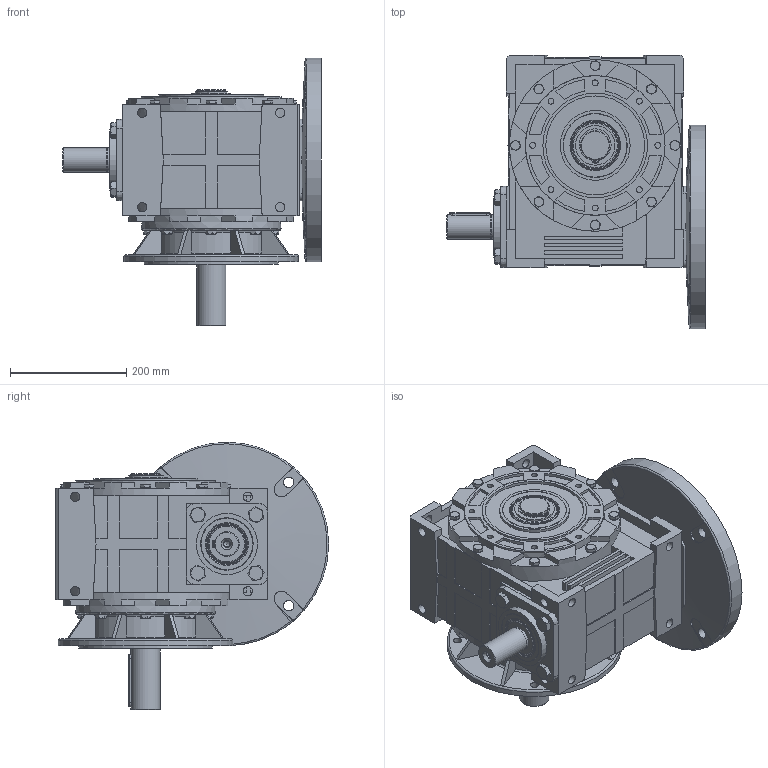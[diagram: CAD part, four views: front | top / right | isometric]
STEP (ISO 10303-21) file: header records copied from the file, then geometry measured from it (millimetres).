
FILE_DESCRIPTION (( 'STEP AP203' ), '1' );
FILE_NAME ('MR-140_160B5+WBS_K300_1_WJ_1_3D.STEP', '2018-11-14T13:05:59', ( 'Biuro' ), ( 'Microsoft' ), 'SwSTEP 2.0', 'SolidWorks 2013', '' );
FILE_SCHEMA (( 'CONFIG_CONTROL_DESIGN' ));
Length unit declared in the file: millimetre
Products named in the file (1): MR-140_160B5+WBS_K300_1_WJ_1_3D
Bounding box: 445 x 470 x 460 mm (x, y, z)
Volume: 23708454.6 mm3; surface area: 1294443.5 mm2
Topology: 1 solids, 35 shells, 1462 faces, 3576 edges, 2265 vertices
Faces by surface type: plane 850, cylinder 348, cone 182, torus 80, bspline 2
Full cylindrical faces by diameter (mm): 2.5 x2, 10 x24, 10.2 x1, 10.5 x8, 11 x8, 13 x1, 14 x5, 16 x36, 17 x5, 18 x8, 24 x8, 41.4 x1, 42 x2, 47 x1, 49.4 x1, 49.5 x1, 49.6 x1, 50 x6, 50.2 x1, 58 x1, 60 x1, 64.95 x2, 65 x3, 68 x1, 70.861 x2, 86 x2, 90 x4, 105 x1, 110 x2, 120 x2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
Entity records: 42862 total; most frequent: CARTESIAN_POINT 9865, DIRECTION 6925, ORIENTED_EDGE 6368, EDGE_CURVE 3184, AXIS2_PLACEMENT_3D 2609, VERTEX_POINT 2141, EDGE_LOOP 1907, LINE 1707
